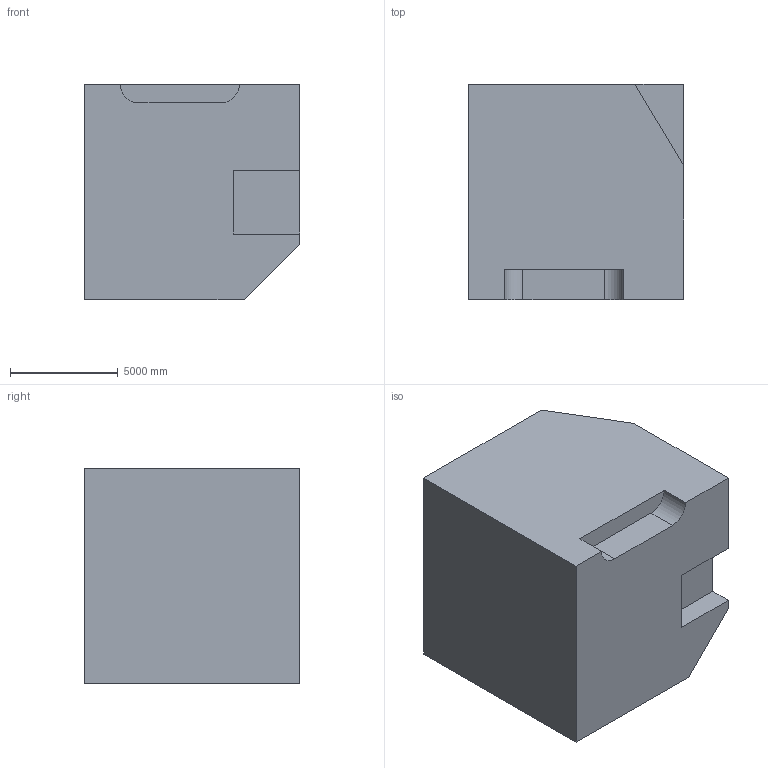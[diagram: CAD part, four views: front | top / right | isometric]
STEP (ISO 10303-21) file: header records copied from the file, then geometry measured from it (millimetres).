
FILE_DESCRIPTION (( 'STEP AP203' ), '1' );
FILE_NAME ('303.STEP', '2022-08-04T14:20:21', ( 'user' ), ( '' ), 'SwSTEP 2.0', 'SolidWorks 2021', '' );
FILE_SCHEMA (( 'CONFIG_CONTROL_DESIGN' ));
Length unit declared in the file: centimetre
Products named in the file (1): 303
Bounding box: 10000 x 10000 x 10000 mm (x, y, z)
Volume: 937913879870.3 mm3; surface area: 580961169.2 mm2
Topology: 1 solids, 1 shells, 17 faces, 45 edges, 30 vertices
Faces by surface type: plane 15, cylinder 2
Entity records: 600 total; most frequent: CARTESIAN_POINT 93, ORIENTED_EDGE 90, DIRECTION 85, EDGE_CURVE 45, VECTOR 41, LINE 41, VERTEX_POINT 30, AXIS2_PLACEMENT_3D 22
